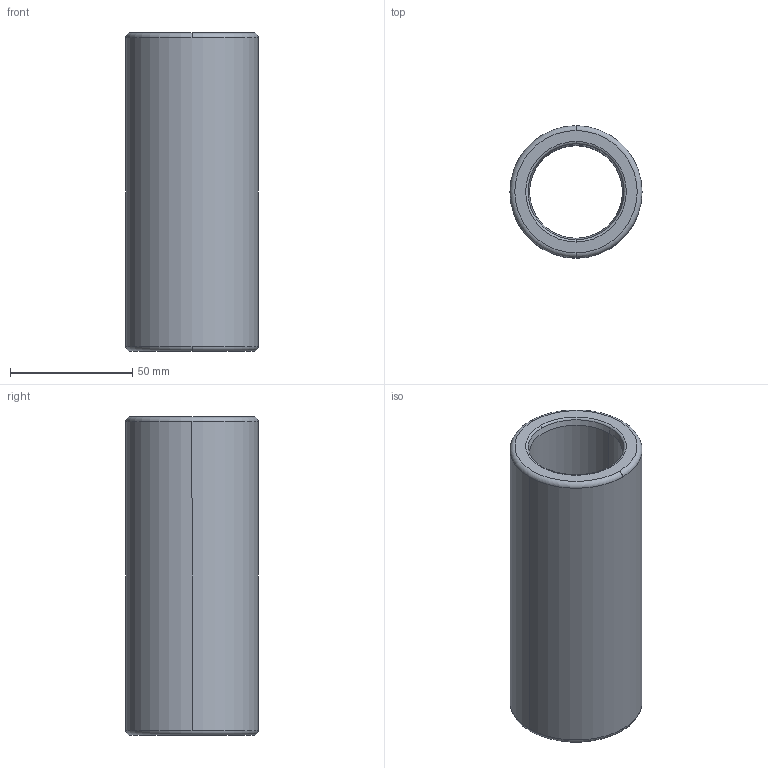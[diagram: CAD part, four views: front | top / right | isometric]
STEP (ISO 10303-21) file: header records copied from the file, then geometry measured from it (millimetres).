
FILE_DESCRIPTION((''),'2;1');
FILE_NAME('B30_030_130.stp','2009-01-12T10:26:07',(''),(''),'Mechanical Desktop 2009','Mechanical Desktop 2009',', , ');
FILE_SCHEMA(('CONFIG_CONTROL_DESIGN'));
Length unit declared in the file: millimetre
Products named in the file (2): Product; blmdl1
Assembly tree (1 placements, depth 2):
  Product
    blmdl1
Bounding box: 53.99 x 53.99 x 130 mm (x, y, z)
Volume: 149800.8 mm3; surface area: 39361 mm2
Topology: 1 solids, 1 shells, 18 faces, 48 edges, 32 vertices
Faces by surface type: torus 8, cylinder 4, cone 4, plane 2
Entity records: 705 total; most frequent: DIRECTION 128, CARTESIAN_POINT 100, ORIENTED_EDGE 96, AXIS2_PLACEMENT_3D 60, EDGE_CURVE 48, CIRCLE 40, VERTEX_POINT 32, EDGE_LOOP 20
